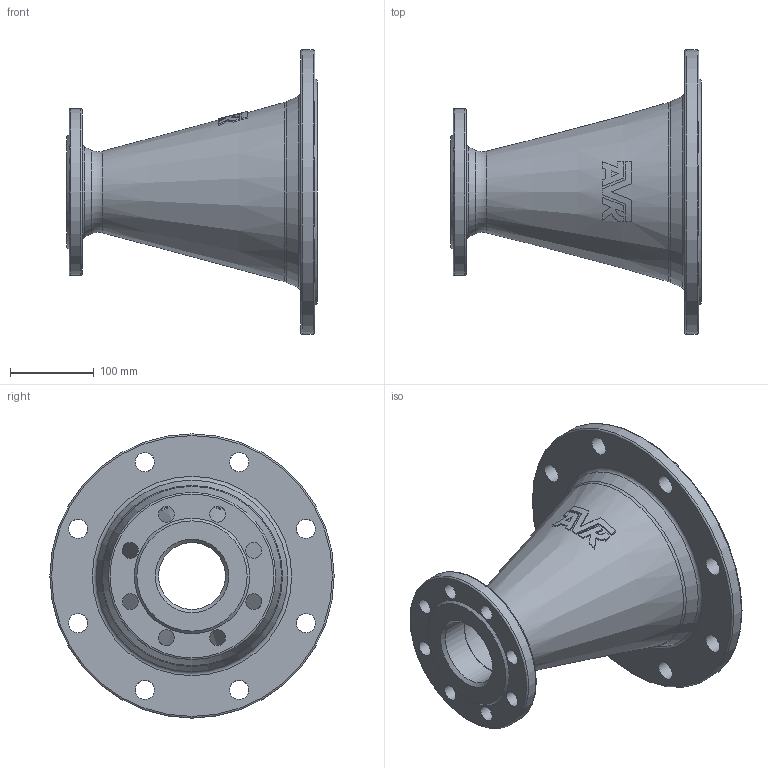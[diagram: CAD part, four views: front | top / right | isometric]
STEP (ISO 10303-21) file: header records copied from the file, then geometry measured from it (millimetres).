
FILE_DESCRIPTION (( 'STEP AP203' ), '1' );
FILE_NAME ('O_712_2210_DN200_DN80_0X_REV01.step', '2024-08-07T12:05:54', ( '' ), ( '' ), 'SwSTEP 2.0', 'SolidWorks 2022', '' );
FILE_SCHEMA (( 'CONFIG_CONTROL_DESIGN' ));
Length unit declared in the file: millimetre
Products named in the file (1): O_712_2210_DN200_DN80_0X_REV01
Bounding box: 300 x 340 x 340 mm (x, y, z)
Volume: 2396548.6 mm3; surface area: 456591.7 mm2
Topology: 1 solids, 1 shells, 85 faces, 237 edges, 154 vertices
Faces by surface type: plane 41, cylinder 22, cone 12, torus 10
Full cylindrical faces by diameter (mm): 19 x8, 23 x8, 80 x1, 200 x2, 340 x1
Entity records: 2596 total; most frequent: CARTESIAN_POINT 587, DIRECTION 407, ORIENTED_EDGE 356, AXIS2_PLACEMENT_3D 185, EDGE_CURVE 178, EDGE_LOOP 157, VERTEX_POINT 133, FACE_OUTER_BOUND 115
